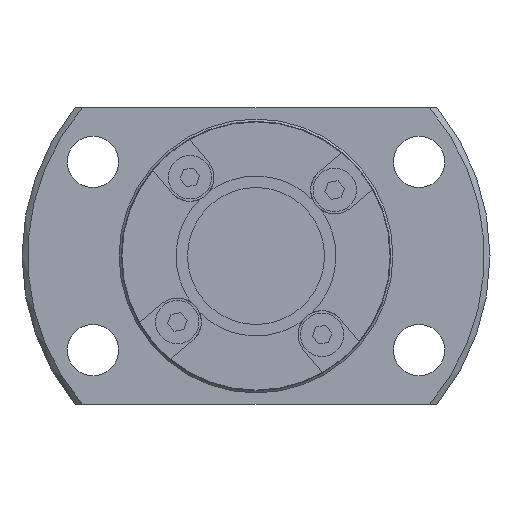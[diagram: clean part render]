
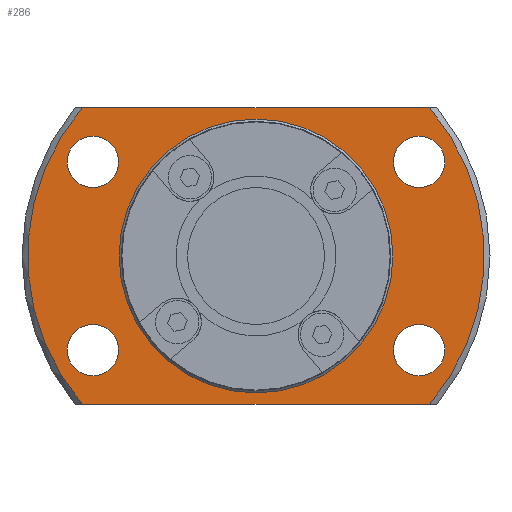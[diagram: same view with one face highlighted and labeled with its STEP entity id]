
A CAD part, left-side view. The second image highlights one B-rep face of the part: STEP entity #286.
In plain terms, the highlighted planar face has unit normal (-1, 0, 0).
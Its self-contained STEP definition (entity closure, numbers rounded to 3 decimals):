
#286 = ADVANCED_FACE( '', ( #596, #597, #598, #599, #600, #601 ), #602, .F. );
#596 = FACE_OUTER_BOUND( '', #928, .T. );
#597 = FACE_BOUND( '', #929, .T. );
#598 = FACE_BOUND( '', #930, .T. );
#599 = FACE_BOUND( '', #931, .T. );
#600 = FACE_BOUND( '', #932, .T. );
#601 = FACE_BOUND( '', #933, .T. );
#602 = PLANE( '', #934 );
#928 = EDGE_LOOP( '', ( #1559, #1560, #1561, #1562 ) );
#929 = EDGE_LOOP( '', ( #1563 ) );
#930 = EDGE_LOOP( '', ( #1564 ) );
#931 = EDGE_LOOP( '', ( #1565 ) );
#932 = EDGE_LOOP( '', ( #1566 ) );
#933 = EDGE_LOOP( '', ( #1567 ) );
#934 = AXIS2_PLACEMENT_3D( '', #1568, #1569, #1570 );
#1559 = ORIENTED_EDGE( '', *, *, #2005, .F. );
#1560 = ORIENTED_EDGE( '', *, *, #1959, .T. );
#1561 = ORIENTED_EDGE( '', *, *, #1893, .F. );
#1562 = ORIENTED_EDGE( '', *, *, #2016, .T. );
#1563 = ORIENTED_EDGE( '', *, *, #2046, .T. );
#1564 = ORIENTED_EDGE( '', *, *, #2048, .T. );
#1565 = ORIENTED_EDGE( '', *, *, #2028, .T. );
#1566 = ORIENTED_EDGE( '', *, *, #1813, .T. );
#1567 = ORIENTED_EDGE( '', *, *, #2049, .T. );
#1568 = CARTESIAN_POINT( '', ( 14.5, 11.75, 0. ) );
#1569 = DIRECTION( '', ( 1., 0., 0. ) );
#1570 = DIRECTION( '', ( 0., 0., -1. ) );
#1813 = EDGE_CURVE( '', #2116, #2116, #2117, .T. );
#1893 = EDGE_CURVE( '', #2252, #2253, #2254, .T. );
#1959 = EDGE_CURVE( '', #2356, #2253, #2357, .T. );
#2005 = EDGE_CURVE( '', #2356, #2419, #2420, .T. );
#2016 = EDGE_CURVE( '', #2252, #2419, #2433, .T. );
#2028 = EDGE_CURVE( '', #2448, #2448, #2449, .T. );
#2046 = EDGE_CURVE( '', #2476, #2476, #2477, .T. );
#2048 = EDGE_CURVE( '', #2479, #2479, #2480, .T. );
#2049 = EDGE_CURVE( '', #2481, #2481, #2482, .T. );
#2116 = VERTEX_POINT( '', #2560 );
#2117 = CIRCLE( '', #2561, 2.25 );
#2252 = VERTEX_POINT( '', #2741 );
#2253 = VERTEX_POINT( '', #2742 );
#2254 = CIRCLE( '', #2743, 20. );
#2356 = VERTEX_POINT( '', #2883 );
#2357 = LINE( '', #2884, #2885 );
#2419 = VERTEX_POINT( '', #2974 );
#2420 = CIRCLE( '', #2975, 20. );
#2433 = LINE( '', #2995, #2996 );
#2448 = VERTEX_POINT( '', #3016 );
#2449 = CIRCLE( '', #3017, 2.25 );
#2476 = VERTEX_POINT( '', #3047 );
#2477 = CIRCLE( '', #3048, 2.25 );
#2479 = VERTEX_POINT( '', #3050 );
#2480 = CIRCLE( '', #3051, 2.25 );
#2481 = VERTEX_POINT( '', #3052 );
#2482 = CIRCLE( '', #3053, 11.75 );
#2560 = CARTESIAN_POINT( '', ( 14.5, 14.289, 6. ) );
#2561 = AXIS2_PLACEMENT_3D( '', #3131, #3132, #3133 );
#2741 = CARTESIAN_POINT( '', ( 14.5, -15.199, 13. ) );
#2742 = CARTESIAN_POINT( '', ( 14.5, -15.199, -13. ) );
#2743 = AXIS2_PLACEMENT_3D( '', #3230, #3231, #3232 );
#2883 = CARTESIAN_POINT( '', ( 14.5, 15.199, -13. ) );
#2884 = CARTESIAN_POINT( '', ( 14.5, 11.75, -13. ) );
#2885 = VECTOR( '', #3322, 1000. );
#2974 = CARTESIAN_POINT( '', ( 14.5, 15.199, 13. ) );
#2975 = AXIS2_PLACEMENT_3D( '', #3362, #3363, #3364 );
#2995 = CARTESIAN_POINT( '', ( 14.5, 11.75, 13. ) );
#2996 = VECTOR( '', #3375, 1000. );
#3016 = CARTESIAN_POINT( '', ( 14.5, 14.289, -10.5 ) );
#3017 = AXIS2_PLACEMENT_3D( '', #3384, #3385, #3386 );
#3047 = CARTESIAN_POINT( '', ( 14.5, -14.289, 6. ) );
#3048 = AXIS2_PLACEMENT_3D( '', #3417, #3418, #3419 );
#3050 = CARTESIAN_POINT( '', ( 14.5, -14.289, -10.5 ) );
#3051 = AXIS2_PLACEMENT_3D( '', #3420, #3421, #3422 );
#3052 = CARTESIAN_POINT( '', ( 14.5, 0., -11.75 ) );
#3053 = AXIS2_PLACEMENT_3D( '', #3423, #3424, #3425 );
#3131 = CARTESIAN_POINT( '', ( 14.5, 14.289, 8.25 ) );
#3132 = DIRECTION( '', ( 1., 0., 0. ) );
#3133 = DIRECTION( '', ( 0., 0., -1. ) );
#3230 = CARTESIAN_POINT( '', ( 14.5, 0., 0. ) );
#3231 = DIRECTION( '', ( 1., 0., 0. ) );
#3232 = DIRECTION( '', ( 0., 0., -1. ) );
#3322 = DIRECTION( '', ( 0., -1., 0. ) );
#3362 = CARTESIAN_POINT( '', ( 14.5, 0., 0. ) );
#3363 = DIRECTION( '', ( 1., 0., 0. ) );
#3364 = DIRECTION( '', ( 0., 0., -1. ) );
#3375 = DIRECTION( '', ( 0., 1., 0. ) );
#3384 = CARTESIAN_POINT( '', ( 14.5, 14.289, -8.25 ) );
#3385 = DIRECTION( '', ( 1., 0., 0. ) );
#3386 = DIRECTION( '', ( 0., 0., -1. ) );
#3417 = CARTESIAN_POINT( '', ( 14.5, -14.289, 8.25 ) );
#3418 = DIRECTION( '', ( 1., 0., 0. ) );
#3419 = DIRECTION( '', ( 0., 0., -1. ) );
#3420 = CARTESIAN_POINT( '', ( 14.5, -14.289, -8.25 ) );
#3421 = DIRECTION( '', ( 1., 0., 0. ) );
#3422 = DIRECTION( '', ( 0., 0., -1. ) );
#3423 = CARTESIAN_POINT( '', ( 14.5, 0., 0. ) );
#3424 = DIRECTION( '', ( 1., 0., 0. ) );
#3425 = DIRECTION( '', ( 0., 0., -1. ) );
